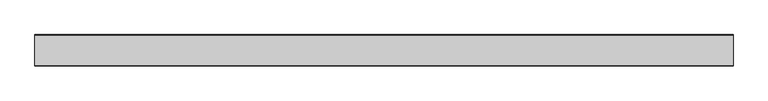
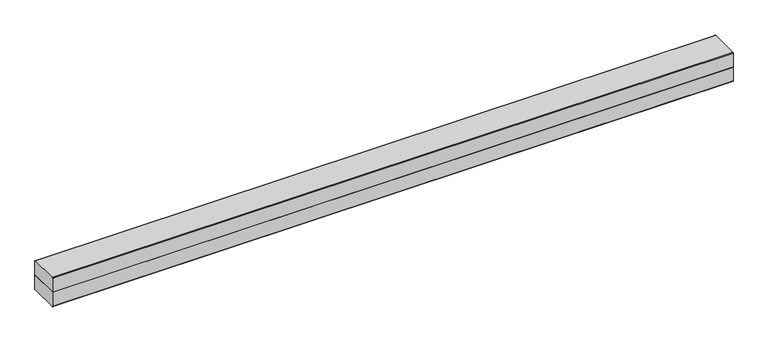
"""IFC4 building model written with IfcOpenShell, lengths in millimetres: proxy geometry, Weiku - Caixa de Persiana : Weiku - Persiana 180mm x 180mm."""

from ifc_helpers import new_model, si_unit, point, frame, frame_2d, origin, place, context, project, spatial, polyline, circle_curve, trimmed, segment, composite_curve, outline, extrude, source, transform, mapped, element, save


def generic_models_398b5639(model_context):
    return source(origin(), model_context, "Body", "SweptSolid", [
        extrude(outline(composite_curve([segment(polyline([(-90.0, 0.0), (90.0, 0.0), (90.0, -86.0)]), True, "CONTINUOUS"), segment(trimmed(circle_curve(frame_2d((86.0, -86.0)), 4.0), [point((90.0, -86.0))], [point((86.0, -90.0))], False, "CARTESIAN"), True, "CONTINUOUS"), segment(polyline([(86.0, -90.0), (-86.0, -90.0)]), True, "CONTINUOUS"), segment(trimmed(circle_curve(frame_2d((-86.0, -86.0)), 4.0), [point((-86.0, -90.0))], [point((-90.0, -86.0))], False, "CARTESIAN"), True, "CONTINUOUS"), segment(polyline([(-90.0, -86.0), (-90.0, 0.0)]), True, "CONTINUOUS")], self_intersect=False)), frame((-1997.0, 0.0, 0.0), z_axis=(1.0, 0.0, 0.0), x_axis=(0.0, 1.0, 0.0)), (0.0, 0.0, 1.0), 3994.0),
        extrude(outline(composite_curve([segment(polyline([(-90.0, 0.0), (-90.0, 86.0)]), True, "CONTINUOUS"), segment(trimmed(circle_curve(frame_2d((-86.0, 86.0)), 4.0), [point((-90.0, 86.0))], [point((-86.0, 90.0))], False, "CARTESIAN"), True, "CONTINUOUS"), segment(polyline([(-86.0, 90.0), (86.0, 90.0)]), True, "CONTINUOUS"), segment(trimmed(circle_curve(frame_2d((86.0, 86.0)), 4.0), [point((86.0, 90.0))], [point((90.0, 86.0))], False, "CARTESIAN"), True, "CONTINUOUS"), segment(polyline([(90.0, 86.0), (90.0, 0.0), (-90.0, 0.0)]), True, "CONTINUOUS")], self_intersect=False)), frame((-1997.0, 0.0, 0.0), z_axis=(1.0, 0.0, 0.0), x_axis=(0.0, 1.0, 0.0)), (0.0, 0.0, 1.0), 3994.0),
    ])


if __name__ == "__main__":
    model = new_model("IFC4")
    model_context = context("Model", 3, world=origin())
    ifc_project = project(units=[si_unit("LENGTHUNIT", "METRE", prefix="MILLI")], contexts=[model_context])
    site = spatial("IfcSite", under=ifc_project)
    building = spatial("IfcBuilding", under=site)
    placement = place(None, origin())
    generic_models_shape = generic_models_398b5639(model_context)
    element("IfcBuildingElementProxy", 1, Name="Weiku - Caixa de Persiana : Weiku - Persiana 180mm x 180mm", ObjectType="Weiku - Caixa de Persiana : Weiku - Persiana 180mm x 180mm", at=placement, inside=building, context=model_context, shape_type="MappedRepresentation", body=[
        mapped(generic_models_shape, transform((0.0, 0.0, 0.0), x_axis=(1.0, 0.0, 0.0), y_axis=(0.0, 1.0, 0.0), z_axis=(0.0, 0.0, 1.0))),
    ])
    save(model, "model.ifc")
